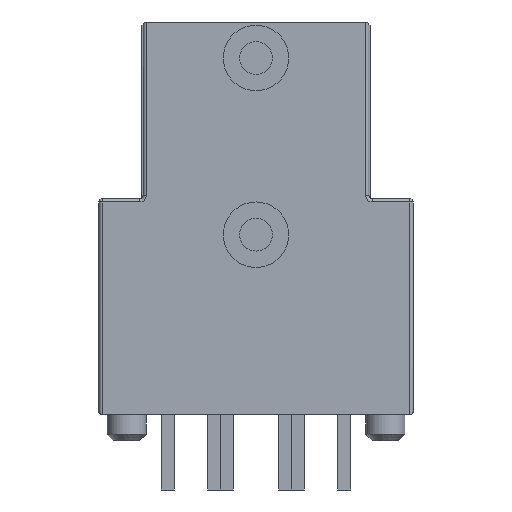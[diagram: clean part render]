
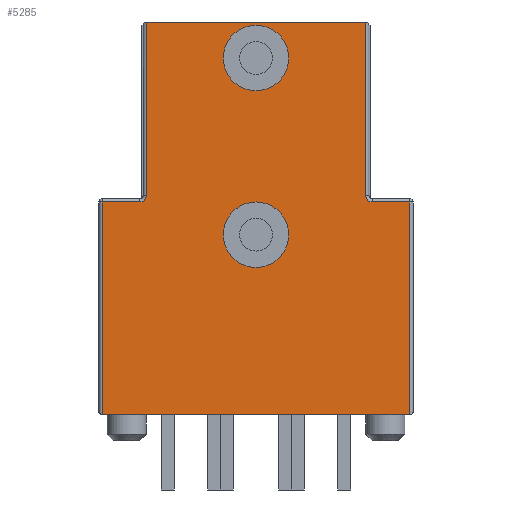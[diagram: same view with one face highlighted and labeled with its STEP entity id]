
A CAD part, front view. The second image highlights one B-rep face of the part: STEP entity #5285.
In plain terms, the highlighted planar face has unit normal (0, -1, 0).
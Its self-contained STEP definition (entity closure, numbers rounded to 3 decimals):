
#99 = CARTESIAN_POINT ( 'NONE',  ( -0.701, -1.696, 13.7 ) ) ;
#106 = ORIENTED_EDGE ( 'NONE', *, *, #3391, .F. ) ;
#184 = DIRECTION ( 'NONE',  ( 0., 0., -1. ) ) ;
#271 = CARTESIAN_POINT ( 'NONE',  ( -0.801, -1.696, 13.7 ) ) ;
#422 = LINE ( 'NONE', #2556, #3651 ) ;
#429 = CARTESIAN_POINT ( 'NONE',  ( 8.699, -1.696, 7.2 ) ) ;
#571 = CARTESIAN_POINT ( 'NONE',  ( 0.449, -1.696, 13.9 ) ) ;
#572 = CARTESIAN_POINT ( 'NONE',  ( -0.701, -1.696, 7.2 ) ) ;
#585 = VECTOR ( 'NONE', #847, 1000. ) ;
#718 = EDGE_LOOP ( 'NONE', ( #3544, #870, #2730, #5999, #1673, #1315, #977, #5170, #1620, #1627 ) ) ;
#734 = DIRECTION ( 'NONE',  ( 1., 0., 0. ) ) ;
#792 = CARTESIAN_POINT ( 'NONE',  ( 3.999, -1.696, 12.7 ) ) ;
#847 = DIRECTION ( 'NONE',  ( 0., 0., -1. ) ) ;
#870 = ORIENTED_EDGE ( 'NONE', *, *, #3633, .T. ) ;
#977 = ORIENTED_EDGE ( 'NONE', *, *, #5326, .T. ) ;
#1071 = FACE_BOUND ( 'NONE', #3188, .T. ) ;
#1194 = CARTESIAN_POINT ( 'NONE',  ( 7.549, -1.696, 13.7 ) ) ;
#1311 = DIRECTION ( 'NONE',  ( -1., 0., 0. ) ) ;
#1315 = ORIENTED_EDGE ( 'NONE', *, *, #1479, .F. ) ;
#1316 = AXIS2_PLACEMENT_3D ( 'NONE', #792, #5985, #5000 ) ;
#1339 = CARTESIAN_POINT ( 'NONE',  ( 7.349, -1.696, 13.9 ) ) ;
#1363 = CARTESIAN_POINT ( 'NONE',  ( 0.449, -1.696, 13.7 ) ) ;
#1476 = CARTESIAN_POINT ( 'NONE',  ( 3.999, -1.696, 19.1 ) ) ;
#1479 = EDGE_CURVE ( 'NONE', #6045, #2601, #4157, .T. ) ;
#1492 = ORIENTED_EDGE ( 'NONE', *, *, #2477, .F. ) ;
#1527 = DIRECTION ( 'NONE',  ( -1., 0., 0. ) ) ;
#1580 = VERTEX_POINT ( 'NONE', #1194 ) ;
#1587 = FACE_BOUND ( 'NONE', #4454, .T. ) ;
#1620 = ORIENTED_EDGE ( 'NONE', *, *, #1868, .T. ) ;
#1627 = ORIENTED_EDGE ( 'NONE', *, *, #6656, .T. ) ;
#1673 = ORIENTED_EDGE ( 'NONE', *, *, #3056, .T. ) ;
#1765 = VERTEX_POINT ( 'NONE', #99 ) ;
#1786 = DIRECTION ( 'NONE',  ( 0., -1., 0. ) ) ;
#1800 = VERTEX_POINT ( 'NONE', #1476 ) ;
#1802 = DIRECTION ( 'NONE',  ( -1., 0., 0. ) ) ;
#1822 = CARTESIAN_POINT ( 'NONE',  ( 0.649, -1.696, 19.2 ) ) ;
#1839 = CIRCLE ( 'NONE', #2327, 1. ) ;
#1844 = AXIS2_PLACEMENT_3D ( 'NONE', #2899, #2271, #2837 ) ;
#1868 = EDGE_CURVE ( 'NONE', #3886, #1765, #6523, .T. ) ;
#1877 = CIRCLE ( 'NONE', #5224, 1. ) ;
#2167 = EDGE_CURVE ( 'NONE', #6711, #1580, #6730, .T. ) ;
#2271 = DIRECTION ( 'NONE',  ( 0., -1., 0. ) ) ;
#2295 = CARTESIAN_POINT ( 'NONE',  ( 3.999, -1.696, 18.1 ) ) ;
#2327 = AXIS2_PLACEMENT_3D ( 'NONE', #5472, #2382, #4494 ) ;
#2382 = DIRECTION ( 'NONE',  ( 0., -1., 0. ) ) ;
#2477 = EDGE_CURVE ( 'NONE', #2489, #1800, #6052, .T. ) ;
#2486 = DIRECTION ( 'NONE',  ( 0., 0., 1. ) ) ;
#2489 = VERTEX_POINT ( 'NONE', #3450 ) ;
#2556 = CARTESIAN_POINT ( 'NONE',  ( 0.549, -1.696, 13.7 ) ) ;
#2601 = VERTEX_POINT ( 'NONE', #6719 ) ;
#2622 = LINE ( 'NONE', #5120, #4192 ) ;
#2714 = CARTESIAN_POINT ( 'NONE',  ( 8.699, -1.696, 13.7 ) ) ;
#2730 = ORIENTED_EDGE ( 'NONE', *, *, #4853, .T. ) ;
#2765 = ORIENTED_EDGE ( 'NONE', *, *, #5388, .F. ) ;
#2837 = DIRECTION ( 'NONE',  ( -1., 0., 0. ) ) ;
#2899 = CARTESIAN_POINT ( 'NONE',  ( 7.549, -1.696, 13.9 ) ) ;
#2964 = DIRECTION ( 'NONE',  ( -1., 0., 0. ) ) ;
#3056 = EDGE_CURVE ( 'NONE', #6711, #2601, #2622, .T. ) ;
#3188 = EDGE_LOOP ( 'NONE', ( #5932, #1492 ) ) ;
#3212 = CARTESIAN_POINT ( 'NONE',  ( 0.549, -1.696, 19.2 ) ) ;
#3332 = CARTESIAN_POINT ( 'NONE',  ( 3.999, -1.696, 11.7 ) ) ;
#3391 = EDGE_CURVE ( 'NONE', #3728, #5475, #6408, .T. ) ;
#3392 = VECTOR ( 'NONE', #5280, 1000. ) ;
#3450 = CARTESIAN_POINT ( 'NONE',  ( 3.999, -1.696, 17.1 ) ) ;
#3544 = ORIENTED_EDGE ( 'NONE', *, *, #5507, .F. ) ;
#3574 = VERTEX_POINT ( 'NONE', #429 ) ;
#3576 = DIRECTION ( 'NONE',  ( 0., 0., 1. ) ) ;
#3586 = CARTESIAN_POINT ( 'NONE',  ( 3.999, -1.696, 12.7 ) ) ;
#3633 = EDGE_CURVE ( 'NONE', #3574, #4462, #6091, .T. ) ;
#3651 = VECTOR ( 'NONE', #1527, 1000. ) ;
#3653 = VECTOR ( 'NONE', #3576, 1000. ) ;
#3728 = VERTEX_POINT ( 'NONE', #6853 ) ;
#3760 = AXIS2_PLACEMENT_3D ( 'NONE', #571, #4388, #4359 ) ;
#3777 = PLANE ( 'NONE',  #6630 ) ;
#3886 = VERTEX_POINT ( 'NONE', #1363 ) ;
#3967 = CARTESIAN_POINT ( 'NONE',  ( 8.699, -1.696, 13.8 ) ) ;
#4141 = CARTESIAN_POINT ( 'NONE',  ( 0.649, -1.696, 19.2 ) ) ;
#4157 = LINE ( 'NONE', #6826, #3392 ) ;
#4192 = VECTOR ( 'NONE', #2486, 1000. ) ;
#4287 = LINE ( 'NONE', #6393, #5003 ) ;
#4359 = DIRECTION ( 'NONE',  ( -1., 0., 0. ) ) ;
#4388 = DIRECTION ( 'NONE',  ( 0., -1., 0. ) ) ;
#4454 = EDGE_LOOP ( 'NONE', ( #106, #2765 ) ) ;
#4462 = VERTEX_POINT ( 'NONE', #2714 ) ;
#4494 = DIRECTION ( 'NONE',  ( -1., 0., 0. ) ) ;
#4718 = DIRECTION ( 'NONE',  ( 0., 1., 0. ) ) ;
#4806 = EDGE_CURVE ( 'NONE', #1800, #2489, #1839, .T. ) ;
#4853 = EDGE_CURVE ( 'NONE', #4462, #1580, #422, .T. ) ;
#5000 = DIRECTION ( 'NONE',  ( -1., 0., 0. ) ) ;
#5003 = VECTOR ( 'NONE', #5339, 1000. ) ;
#5120 = CARTESIAN_POINT ( 'NONE',  ( 7.349, -1.696, 19.2 ) ) ;
#5170 = ORIENTED_EDGE ( 'NONE', *, *, #5544, .F. ) ;
#5224 = AXIS2_PLACEMENT_3D ( 'NONE', #3586, #5688, #2964 ) ;
#5280 = DIRECTION ( 'NONE',  ( 1., 0., 0. ) ) ;
#5285 = ADVANCED_FACE ( 'NONE', ( #5319, #1587, #1071 ), #3777, .F. ) ;
#5319 = FACE_OUTER_BOUND ( 'NONE', #718, .T. ) ;
#5326 = EDGE_CURVE ( 'NONE', #6045, #6177, #5454, .T. ) ;
#5339 = DIRECTION ( 'NONE',  ( -1., 0., 0. ) ) ;
#5388 = EDGE_CURVE ( 'NONE', #5475, #3728, #1877, .T. ) ;
#5454 = LINE ( 'NONE', #1822, #6200 ) ;
#5455 = CARTESIAN_POINT ( 'NONE',  ( 0.649, -1.696, 13.9 ) ) ;
#5472 = CARTESIAN_POINT ( 'NONE',  ( 3.999, -1.696, 18.1 ) ) ;
#5475 = VERTEX_POINT ( 'NONE', #3332 ) ;
#5507 = EDGE_CURVE ( 'NONE', #3574, #6558, #4287, .T. ) ;
#5544 = EDGE_CURVE ( 'NONE', #3886, #6177, #5861, .T. ) ;
#5590 = VECTOR ( 'NONE', #1802, 1000. ) ;
#5601 = CARTESIAN_POINT ( 'NONE',  ( -0.701, -1.696, 7.2 ) ) ;
#5674 = LINE ( 'NONE', #5601, #585 ) ;
#5688 = DIRECTION ( 'NONE',  ( 0., -1., 0. ) ) ;
#5861 = CIRCLE ( 'NONE', #3760, 0.2 ) ;
#5932 = ORIENTED_EDGE ( 'NONE', *, *, #4806, .F. ) ;
#5985 = DIRECTION ( 'NONE',  ( 0., -1., 0. ) ) ;
#5999 = ORIENTED_EDGE ( 'NONE', *, *, #2167, .F. ) ;
#6045 = VERTEX_POINT ( 'NONE', #4141 ) ;
#6052 = CIRCLE ( 'NONE', #6598, 1. ) ;
#6091 = LINE ( 'NONE', #3967, #3653 ) ;
#6177 = VERTEX_POINT ( 'NONE', #5455 ) ;
#6200 = VECTOR ( 'NONE', #184, 1000. ) ;
#6393 = CARTESIAN_POINT ( 'NONE',  ( 0.949, -1.696, 7.2 ) ) ;
#6408 = CIRCLE ( 'NONE', #1316, 1. ) ;
#6523 = LINE ( 'NONE', #271, #5590 ) ;
#6558 = VERTEX_POINT ( 'NONE', #572 ) ;
#6598 = AXIS2_PLACEMENT_3D ( 'NONE', #2295, #1786, #1311 ) ;
#6630 = AXIS2_PLACEMENT_3D ( 'NONE', #3212, #4718, #734 ) ;
#6656 = EDGE_CURVE ( 'NONE', #1765, #6558, #5674, .T. ) ;
#6711 = VERTEX_POINT ( 'NONE', #1339 ) ;
#6719 = CARTESIAN_POINT ( 'NONE',  ( 7.349, -1.696, 19.2 ) ) ;
#6730 = CIRCLE ( 'NONE', #1844, 0.2 ) ;
#6826 = CARTESIAN_POINT ( 'NONE',  ( 7.049, -1.696, 19.2 ) ) ;
#6853 = CARTESIAN_POINT ( 'NONE',  ( 3.999, -1.696, 13.7 ) ) ;
